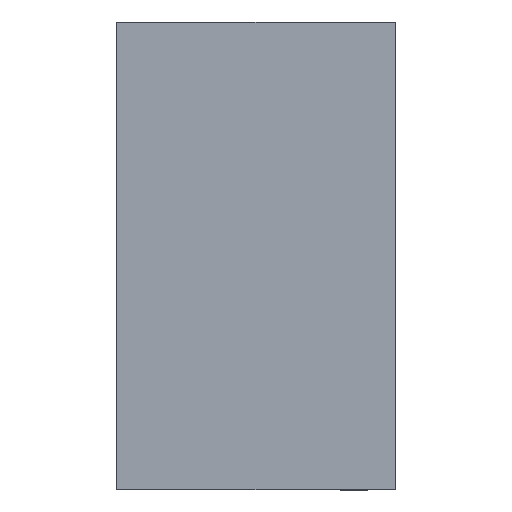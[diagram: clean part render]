
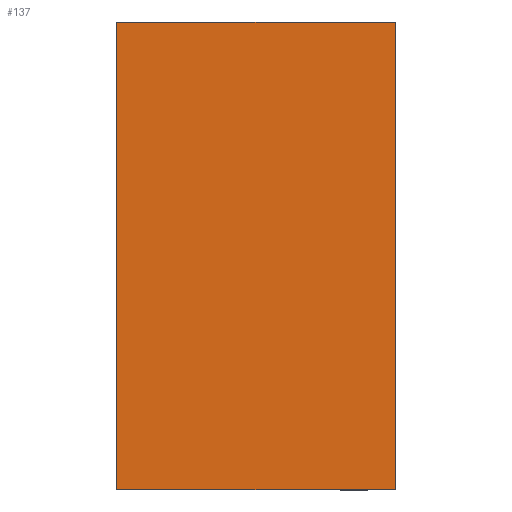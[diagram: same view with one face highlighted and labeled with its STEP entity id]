
A CAD part, front view. The second image highlights one B-rep face of the part: STEP entity #137.
In plain terms, the highlighted planar face has unit normal (0, -1, 0).
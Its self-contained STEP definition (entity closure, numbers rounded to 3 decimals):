
#21 = EDGE_CURVE('',#22,#24,#26,.T.);
#22 = VERTEX_POINT('',#23);
#23 = CARTESIAN_POINT('',(-26.705,-24.5,-44.8));
#24 = VERTEX_POINT('',#25);
#25 = CARTESIAN_POINT('',(-26.705,-24.5,44.8));
#26 = SURFACE_CURVE('',#27,(#31,#43),.PCURVE_S1.);
#27 = LINE('',#28,#29);
#28 = CARTESIAN_POINT('',(-26.705,-24.5,-44.8));
#29 = VECTOR('',#30,1.);
#30 = DIRECTION('',(0.,0.,1.));
#31 = PCURVE('',#32,#37);
#32 = PLANE('',#33);
#33 = AXIS2_PLACEMENT_3D('',#34,#35,#36);
#34 = CARTESIAN_POINT('',(-26.705,-24.5,-44.8));
#35 = DIRECTION('',(1.,0.,0.));
#36 = DIRECTION('',(0.,0.,1.));
#37 = DEFINITIONAL_REPRESENTATION('',(#38),#42);
#38 = LINE('',#39,#40);
#39 = CARTESIAN_POINT('',(0.,0.));
#40 = VECTOR('',#41,1.);
#41 = DIRECTION('',(1.,0.));
#42 = ( GEOMETRIC_REPRESENTATION_CONTEXT(2) 
PARAMETRIC_REPRESENTATION_CONTEXT() REPRESENTATION_CONTEXT('2D SPACE',''
  ) );
#43 = PCURVE('',#44,#49);
#44 = PLANE('',#45);
#45 = AXIS2_PLACEMENT_3D('',#46,#47,#48);
#46 = CARTESIAN_POINT('',(-26.705,-24.5,-44.8));
#47 = DIRECTION('',(0.,1.,0.));
#48 = DIRECTION('',(0.,0.,1.));
#49 = DEFINITIONAL_REPRESENTATION('',(#50),#54);
#50 = LINE('',#51,#52);
#51 = CARTESIAN_POINT('',(0.,0.));
#52 = VECTOR('',#53,1.);
#53 = DIRECTION('',(1.,0.));
#54 = ( GEOMETRIC_REPRESENTATION_CONTEXT(2) 
PARAMETRIC_REPRESENTATION_CONTEXT() REPRESENTATION_CONTEXT('2D SPACE',''
  ) );
#72 = PLANE('',#73);
#73 = AXIS2_PLACEMENT_3D('',#74,#75,#76);
#74 = CARTESIAN_POINT('',(-26.705,-24.5,-44.8));
#75 = DIRECTION('',(0.,0.,1.));
#76 = DIRECTION('',(1.,0.,0.));
#126 = PLANE('',#127);
#127 = AXIS2_PLACEMENT_3D('',#128,#129,#130);
#128 = CARTESIAN_POINT('',(-26.705,-24.5,44.8));
#129 = DIRECTION('',(0.,0.,1.));
#130 = DIRECTION('',(1.,0.,0.));
#137 = ADVANCED_FACE('',(#138),#44,.F.);
#138 = FACE_BOUND('',#139,.F.);
#139 = EDGE_LOOP('',(#140,#163,#164,#187));
#140 = ORIENTED_EDGE('',*,*,#141,.F.);
#141 = EDGE_CURVE('',#22,#142,#144,.T.);
#142 = VERTEX_POINT('',#143);
#143 = CARTESIAN_POINT('',(26.705,-24.5,-44.8));
#144 = SURFACE_CURVE('',#145,(#149,#156),.PCURVE_S1.);
#145 = LINE('',#146,#147);
#146 = CARTESIAN_POINT('',(-26.705,-24.5,-44.8));
#147 = VECTOR('',#148,1.);
#148 = DIRECTION('',(1.,0.,0.));
#149 = PCURVE('',#44,#150);
#150 = DEFINITIONAL_REPRESENTATION('',(#151),#155);
#151 = LINE('',#152,#153);
#152 = CARTESIAN_POINT('',(0.,0.));
#153 = VECTOR('',#154,1.);
#154 = DIRECTION('',(0.,1.));
#155 = ( GEOMETRIC_REPRESENTATION_CONTEXT(2) 
PARAMETRIC_REPRESENTATION_CONTEXT() REPRESENTATION_CONTEXT('2D SPACE',''
  ) );
#156 = PCURVE('',#72,#157);
#157 = DEFINITIONAL_REPRESENTATION('',(#158),#162);
#158 = LINE('',#159,#160);
#159 = CARTESIAN_POINT('',(0.,0.));
#160 = VECTOR('',#161,1.);
#161 = DIRECTION('',(1.,0.));
#162 = ( GEOMETRIC_REPRESENTATION_CONTEXT(2) 
PARAMETRIC_REPRESENTATION_CONTEXT() REPRESENTATION_CONTEXT('2D SPACE',''
  ) );
#163 = ORIENTED_EDGE('',*,*,#21,.T.);
#164 = ORIENTED_EDGE('',*,*,#165,.T.);
#165 = EDGE_CURVE('',#24,#166,#168,.T.);
#166 = VERTEX_POINT('',#167);
#167 = CARTESIAN_POINT('',(26.705,-24.5,44.8));
#168 = SURFACE_CURVE('',#169,(#173,#180),.PCURVE_S1.);
#169 = LINE('',#170,#171);
#170 = CARTESIAN_POINT('',(-26.705,-24.5,44.8));
#171 = VECTOR('',#172,1.);
#172 = DIRECTION('',(1.,0.,0.));
#173 = PCURVE('',#44,#174);
#174 = DEFINITIONAL_REPRESENTATION('',(#175),#179);
#175 = LINE('',#176,#177);
#176 = CARTESIAN_POINT('',(89.6,0.));
#177 = VECTOR('',#178,1.);
#178 = DIRECTION('',(0.,1.));
#179 = ( GEOMETRIC_REPRESENTATION_CONTEXT(2) 
PARAMETRIC_REPRESENTATION_CONTEXT() REPRESENTATION_CONTEXT('2D SPACE',''
  ) );
#180 = PCURVE('',#126,#181);
#181 = DEFINITIONAL_REPRESENTATION('',(#182),#186);
#182 = LINE('',#183,#184);
#183 = CARTESIAN_POINT('',(0.,0.));
#184 = VECTOR('',#185,1.);
#185 = DIRECTION('',(1.,0.));
#186 = ( GEOMETRIC_REPRESENTATION_CONTEXT(2) 
PARAMETRIC_REPRESENTATION_CONTEXT() REPRESENTATION_CONTEXT('2D SPACE',''
  ) );
#187 = ORIENTED_EDGE('',*,*,#188,.F.);
#188 = EDGE_CURVE('',#142,#166,#189,.T.);
#189 = SURFACE_CURVE('',#190,(#194,#201),.PCURVE_S1.);
#190 = LINE('',#191,#192);
#191 = CARTESIAN_POINT('',(26.705,-24.5,-44.8));
#192 = VECTOR('',#193,1.);
#193 = DIRECTION('',(0.,0.,1.));
#194 = PCURVE('',#44,#195);
#195 = DEFINITIONAL_REPRESENTATION('',(#196),#200);
#196 = LINE('',#197,#198);
#197 = CARTESIAN_POINT('',(0.,53.41));
#198 = VECTOR('',#199,1.);
#199 = DIRECTION('',(1.,0.));
#200 = ( GEOMETRIC_REPRESENTATION_CONTEXT(2) 
PARAMETRIC_REPRESENTATION_CONTEXT() REPRESENTATION_CONTEXT('2D SPACE',''
  ) );
#201 = PCURVE('',#202,#207);
#202 = PLANE('',#203);
#203 = AXIS2_PLACEMENT_3D('',#204,#205,#206);
#204 = CARTESIAN_POINT('',(26.705,-24.5,-44.8));
#205 = DIRECTION('',(1.,0.,0.));
#206 = DIRECTION('',(0.,0.,1.));
#207 = DEFINITIONAL_REPRESENTATION('',(#208),#212);
#208 = LINE('',#209,#210);
#209 = CARTESIAN_POINT('',(0.,0.));
#210 = VECTOR('',#211,1.);
#211 = DIRECTION('',(1.,0.));
#212 = ( GEOMETRIC_REPRESENTATION_CONTEXT(2) 
PARAMETRIC_REPRESENTATION_CONTEXT() REPRESENTATION_CONTEXT('2D SPACE',''
  ) );
